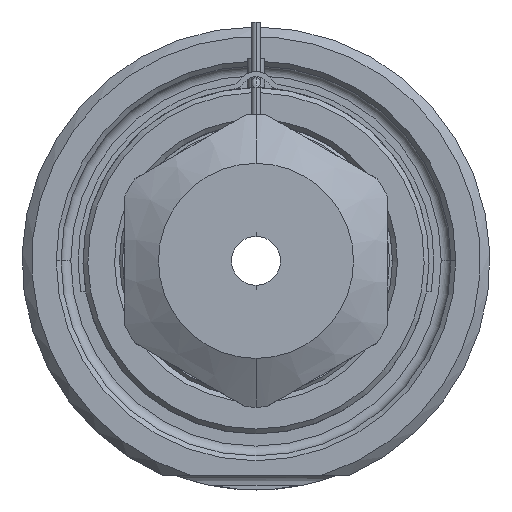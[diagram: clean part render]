
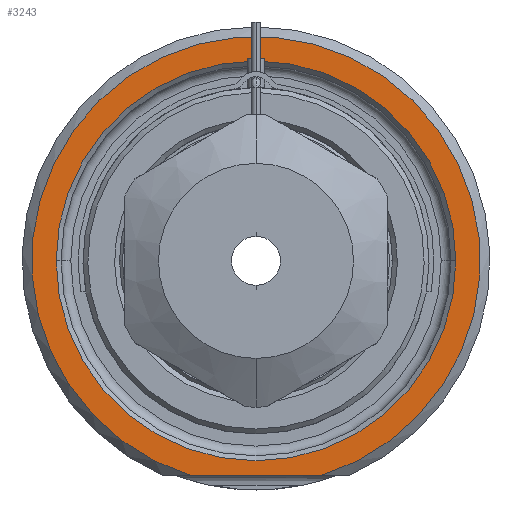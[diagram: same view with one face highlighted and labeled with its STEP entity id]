
A CAD part, front view. The second image highlights one B-rep face of the part: STEP entity #3243.
In plain terms, the highlighted planar face has unit normal (0, -1, 0).
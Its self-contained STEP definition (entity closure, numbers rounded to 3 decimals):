
#1=DIRECTION('',(1.,0.,0.));
#2=VECTOR('',#1,13.416);
#3=CARTESIAN_POINT('',(-6.708,0.,-22.));
#4=LINE('',#3,#2);
#5=CARTESIAN_POINT('',(0.,0.,0.));
#6=DIRECTION('',(0.,1.,0.));
#7=DIRECTION('',(-1.,0.,0.));
#8=AXIS2_PLACEMENT_3D('',#5,#6,#7);
#10=CARTESIAN_POINT('',(0.,0.,0.));
#11=DIRECTION('',(0.,1.,0.));
#12=DIRECTION('',(1.,0.,0.));
#13=AXIS2_PLACEMENT_3D('',#10,#11,#12);
#121=CARTESIAN_POINT('',(0.,0.,0.));
#122=DIRECTION('',(0.,-1.,0.));
#123=DIRECTION('',(0.292,0.,-0.957));
#124=AXIS2_PLACEMENT_3D('',#121,#122,#123);
#2697=CARTESIAN_POINT('',(-20.5,0.,0.));
#2698=CARTESIAN_POINT('',(20.5,0.,0.));
#2699=VERTEX_POINT('',#2697);
#2700=VERTEX_POINT('',#2698);
#2737=CARTESIAN_POINT('',(-6.708,0.,-22.));
#2738=CARTESIAN_POINT('',(6.708,0.,-22.));
#2739=VERTEX_POINT('',#2737);
#2740=VERTEX_POINT('',#2738);
#3226=CARTESIAN_POINT('',(0.,0.,0.));
#3227=DIRECTION('',(0.,-1.,0.));
#3228=DIRECTION('',(1.,0.,0.));
#3229=AXIS2_PLACEMENT_3D('',#3226,#3227,#3228);
#3230=PLANE('',#3229);
#3232=ORIENTED_EDGE('',*,*,#3231,.F.);
#3234=ORIENTED_EDGE('',*,*,#3233,.F.);
#3235=EDGE_LOOP('',(#3232,#3234));
#3236=FACE_OUTER_BOUND('',#3235,.F.);
#3238=ORIENTED_EDGE('',*,*,#3237,.F.);
#3240=ORIENTED_EDGE('',*,*,#3239,.F.);
#3241=EDGE_LOOP('',(#3238,#3240));
#3242=FACE_BOUND('',#3241,.F.);
#3243=ADVANCED_FACE('',(#3236,#3242),#3230,.T.);
#9=CIRCLE('',#8,20.5);
#14=CIRCLE('',#13,20.5);
#125=CIRCLE('',#124,23.);
#3231=EDGE_CURVE('',#2739,#2740,#4,.T.);
#3233=EDGE_CURVE('',#2740,#2739,#125,.T.);
#3237=EDGE_CURVE('',#2699,#2700,#9,.T.);
#3239=EDGE_CURVE('',#2700,#2699,#14,.T.);
